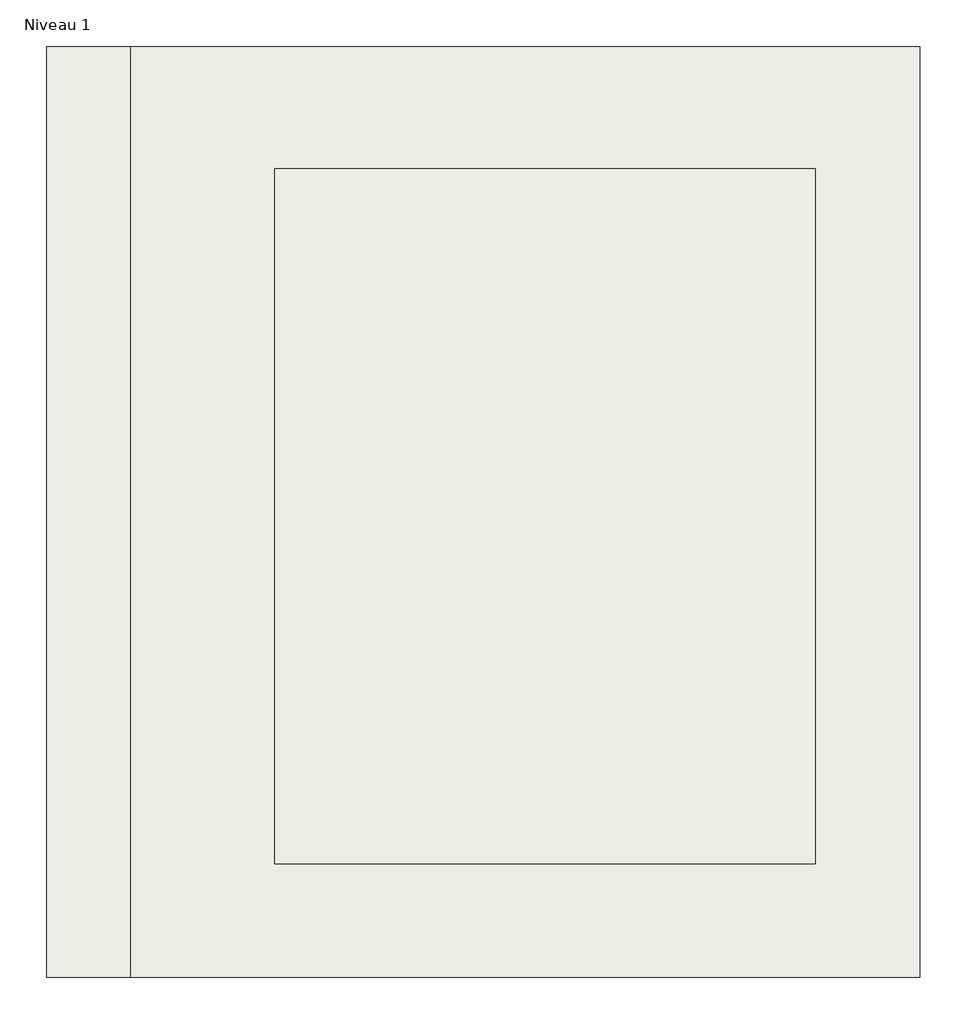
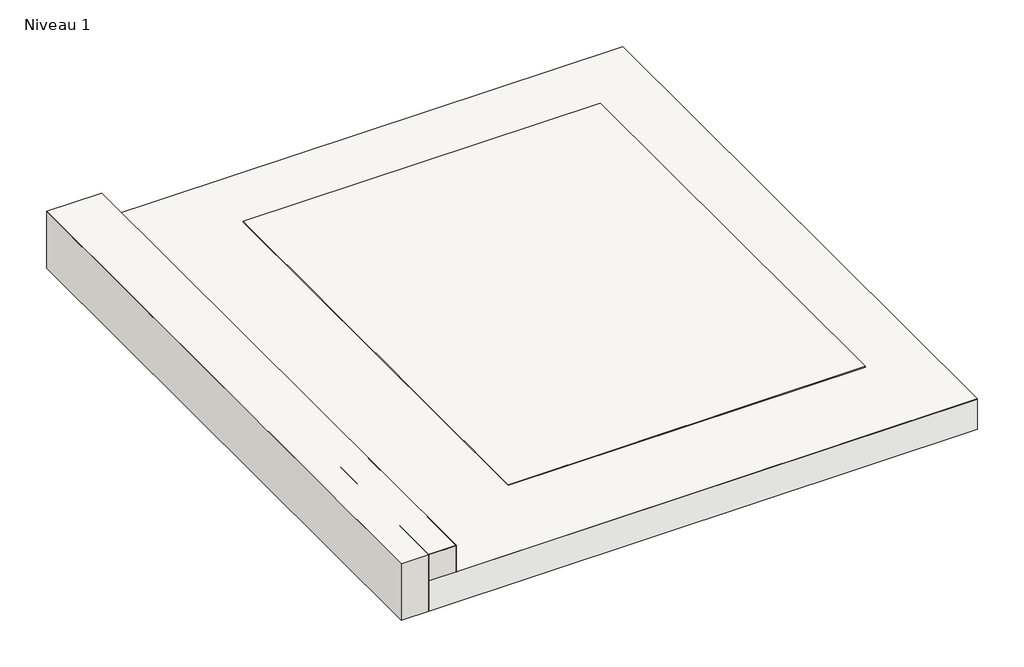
# One storey, incomplete: 4 roofs, 3 walls.
"""IFC4 building model written with IfcOpenShell, lengths in millimetres."""

from ifc_helpers import new_model, si_unit, frame, origin, origin_with_axes, place, context, project, spatial, polyline, outline, extrude, element, save

model = new_model("IFC4")

# Units and contexts
model_context = context("Model", 3, world=origin())
ifc_project = project(units=[si_unit("LENGTHUNIT", "METRE", prefix="MILLI")], contexts=[model_context])

# Site, building, storey
site = spatial("IfcSite", under=ifc_project)
building = spatial("IfcBuilding", under=site)
storey = spatial("IfcBuildingStorey", under=building, Name="Niveau 1", Elevation=0.0)

# Roofs
placement = place(None, origin())
element("IfcRoof", 1, ObjectType="Membrane MASTERSYSTEMS EPDM lestée avec végétation extensive", at=placement, inside=storey, context=model_context, shape_type="SweptSolid", body=[
    extrude(outline(polyline([(39592.1860757, 21211.4879507), (39592.1860757, 27925.9494892), (45292.1860757, 27925.9494892), (45292.1860757, 21211.4879507), (39592.1860757, 21211.4879507)])), origin_with_axes(), (0.0, 0.0, 1.0), 3.0),
])
element("IfcRoof", 2, ObjectType="Membrane MASTERSYSTEMS EPDM collée-Relevés et acrotères", at=placement, inside=storey, context=model_context, shape_type="SweptSolid", body=[
    extrude(outline(polyline([(38992.1860757, 21211.4879507), (38992.1860757, 27925.9494892), (39595.4860757, 27925.9494892), (39595.4860757, 21211.4879507), (38992.1860757, 21211.4879507)])), frame((0.0, 0.0, 300.0), z_axis=(0.0, 0.0, 1.0), x_axis=(1.0, 0.0, 0.0)), (0.0, 0.0, 1.0), 3.3),
])
element("IfcRoof", 3, ObjectType="Végétation_Botanipack", at=placement, inside=storey, context=model_context, shape_type="SweptSolid", body=[
    extrude(outline(polyline([(40636.9466361, 22030.4485727), (40636.9466361, 27045.9101112), (44536.9466361, 27045.9101112), (44536.9466361, 22030.4485727), (40636.9466361, 22030.4485727)])), frame((0.0, 0.0, 138.3), z_axis=(0.0, 0.0, 1.0), x_axis=(1.0, 0.0, 0.0)), (0.0, 0.0, 1.0), 6.5),
])
element("IfcRoof", 4, ObjectType="Toit 1", at=placement, inside=storey, context=model_context, shape_type="SweptSolid", body=[
    extrude(outline(polyline([(39292.1860757, 27925.9494892), (45292.1860757, 27925.9494892), (45292.1860757, 21211.4879507), (39292.1860757, 21211.4879507), (39292.1860757, 27925.9494892)])), frame((0.0, 0.0, -350.8), z_axis=(0.0, 0.0, 1.0), x_axis=(1.0, 0.0, 0.0)), (0.0, 0.0, 1.0), 350.8),
])

# Walls
element("IfcWall", 5, ObjectType="Membrane MASTERSYSTEMS EPDM collée-Relevés et acrotères", at=placement, inside=storey, context=model_context, shape_type="SweptSolid", body=[
    extrude(outline(polyline([(39595.4860757, 27925.9494892), (39595.4860757, 21211.4879507), (39592.1860757, 21211.4879507), (39592.1860757, 27925.9494892), (39595.4860757, 27925.9494892)])), frame((0.0, 0.0, 3.0), z_axis=(0.0, 0.0, 1.0), x_axis=(1.0, 0.0, 0.0)), (0.0, 0.0, 1.0), 297.0),
])
element("IfcWall", 6, ObjectType="Mur 1", at=placement, inside=storey, context=model_context, shape_type="SweptSolid", body=[
    extrude(outline(polyline([(38992.1860757, 21211.4879507), (38992.1860757, 27925.9494892), (39292.1860757, 27925.9494892), (39292.1860757, 21211.4879507), (38992.1860757, 21211.4879507)])), frame((0.0, 0.0, -350.8), z_axis=(0.0, 0.0, 1.0), x_axis=(1.0, 0.0, 0.0)), (0.0, 0.0, 1.0), 650.8),
])
element("IfcWall", 7, ObjectType="Mur 1", at=placement, inside=storey, context=model_context, shape_type="SweptSolid", body=[
    extrude(outline(polyline([(39292.1860757, 21211.4879507), (39292.1860757, 27925.9494892), (39592.1860757, 27925.9494892), (39592.1860757, 21211.4879507), (39292.1860757, 21211.4879507)])), origin_with_axes(), (0.0, 0.0, 1.0), 300.0),
])

save(model, "model.ifc")
